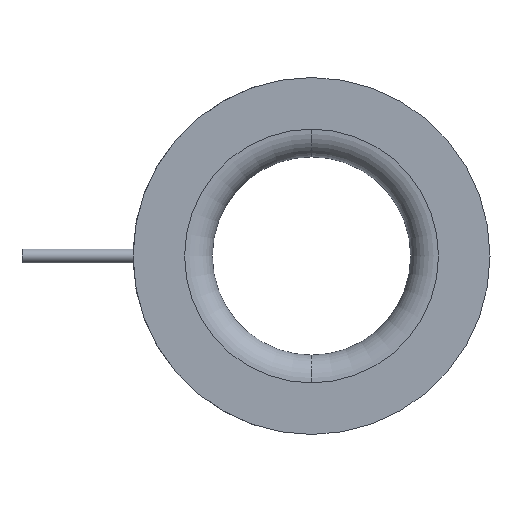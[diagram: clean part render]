
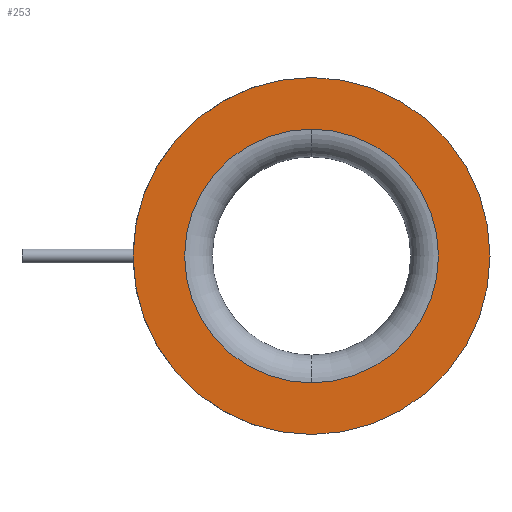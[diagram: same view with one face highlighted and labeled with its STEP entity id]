
A CAD part, front view. The second image highlights one B-rep face of the part: STEP entity #253.
In plain terms, the highlighted planar face has unit normal (0, -1, 0).
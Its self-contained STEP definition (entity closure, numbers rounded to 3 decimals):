
#21 = DIRECTION ( 'NONE',  ( 0., 0., 1. ) ) ;
#190 = ORIENTED_EDGE ( 'NONE', *, *, #462, .F. ) ;
#195 = CARTESIAN_POINT ( 'NONE',  ( 0., 0., -32. ) ) ;
#253 = ADVANCED_FACE ( 'NONE', ( #2564, #2504 ), #1487, .T. ) ;
#411 = CIRCLE ( 'NONE', #1272, 32. ) ;
#462 = EDGE_CURVE ( 'NONE', #1190, #1058, #1132, .T. ) ;
#469 = CARTESIAN_POINT ( 'NONE',  ( 0., 0., 0. ) ) ;
#540 = EDGE_CURVE ( 'NONE', #1702, #1633, #2526, .T. ) ;
#564 = AXIS2_PLACEMENT_3D ( 'NONE', #2073, #1062, #1243 ) ;
#611 = DIRECTION ( 'NONE',  ( 0., 1., 0. ) ) ;
#624 = EDGE_LOOP ( 'NONE', ( #190, #1045 ) ) ;
#793 = ORIENTED_EDGE ( 'NONE', *, *, #1275, .T. ) ;
#893 = DIRECTION ( 'NONE',  ( 0., 1., 0. ) ) ;
#911 = CARTESIAN_POINT ( 'NONE',  ( 0., 0., 32. ) ) ;
#931 = AXIS2_PLACEMENT_3D ( 'NONE', #469, #893, #1287 ) ;
#1045 = ORIENTED_EDGE ( 'NONE', *, *, #2522, .F. ) ;
#1058 = VERTEX_POINT ( 'NONE', #2543 ) ;
#1062 = DIRECTION ( 'NONE',  ( 0., 1., 0. ) ) ;
#1067 = CARTESIAN_POINT ( 'NONE',  ( 0., 0., 0. ) ) ;
#1132 = CIRCLE ( 'NONE', #564, 45. ) ;
#1190 = VERTEX_POINT ( 'NONE', #1443 ) ;
#1221 = DIRECTION ( 'NONE',  ( 0., 1., 0. ) ) ;
#1243 = DIRECTION ( 'NONE',  ( 0., 0., 1. ) ) ;
#1272 = AXIS2_PLACEMENT_3D ( 'NONE', #2032, #1221, #2535 ) ;
#1275 = EDGE_CURVE ( 'NONE', #1633, #1702, #411, .T. ) ;
#1287 = DIRECTION ( 'NONE',  ( 0., 0., 1. ) ) ;
#1358 = ORIENTED_EDGE ( 'NONE', *, *, #540, .T. ) ;
#1429 = CARTESIAN_POINT ( 'NONE',  ( 0., 0., 0. ) ) ;
#1443 = CARTESIAN_POINT ( 'NONE',  ( 0., 0., 45. ) ) ;
#1487 = PLANE ( 'NONE',  #2175 ) ;
#1633 = VERTEX_POINT ( 'NONE', #911 ) ;
#1676 = DIRECTION ( 'NONE',  ( 0., 0., -1. ) ) ;
#1702 = VERTEX_POINT ( 'NONE', #195 ) ;
#2032 = CARTESIAN_POINT ( 'NONE',  ( 0., 0., 0. ) ) ;
#2073 = CARTESIAN_POINT ( 'NONE',  ( 0., 0., 0. ) ) ;
#2175 = AXIS2_PLACEMENT_3D ( 'NONE', #1067, #2319, #1676 ) ;
#2180 = AXIS2_PLACEMENT_3D ( 'NONE', #1429, #611, #21 ) ;
#2319 = DIRECTION ( 'NONE',  ( 0., -1., 0. ) ) ;
#2504 = FACE_OUTER_BOUND ( 'NONE', #624, .T. ) ;
#2522 = EDGE_CURVE ( 'NONE', #1058, #1190, #2558, .T. ) ;
#2526 = CIRCLE ( 'NONE', #931, 32. ) ;
#2535 = DIRECTION ( 'NONE',  ( 0., 0., 1. ) ) ;
#2543 = CARTESIAN_POINT ( 'NONE',  ( 0., 0., -45. ) ) ;
#2558 = CIRCLE ( 'NONE', #2180, 45. ) ;
#2564 = FACE_BOUND ( 'NONE', #2604, .T. ) ;
#2604 = EDGE_LOOP ( 'NONE', ( #793, #1358 ) ) ;
